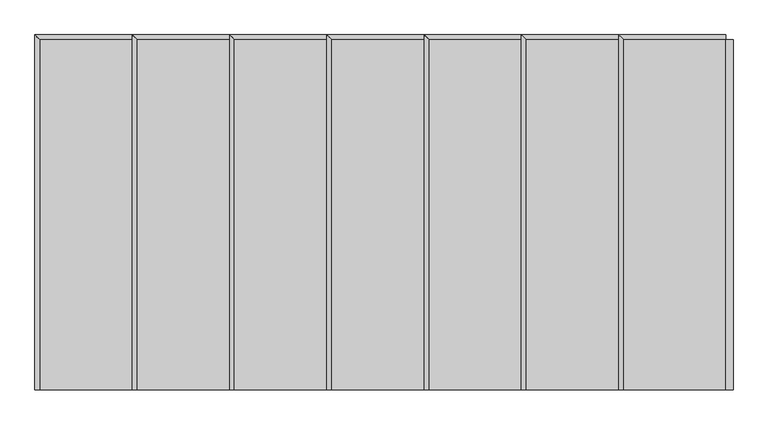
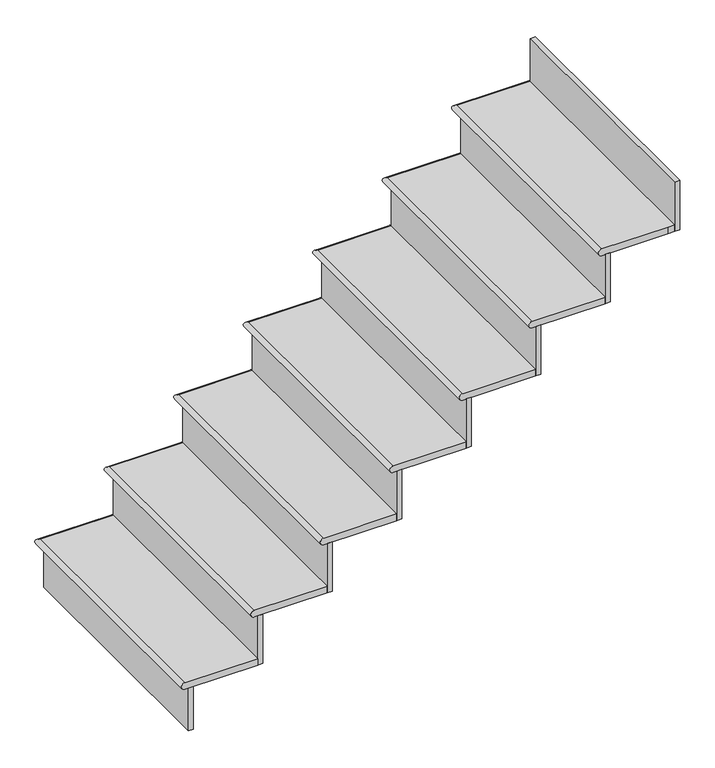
"""IFC4 building model written with IfcOpenShell, lengths in millimetres: stair flight geometry."""

import ifcopenshell
import ifcopenshell.guid

model = None  # the IFC model being written
_history = None  # IfcOwnerHistory: only IFC2X3 demands one
_inside = {}  # id of a spatial element -> (the spatial element, [elements in it])
_under = {}  # id of a project, library or spatial element -> (it, [spatial elements below it])
_declared = {}  # id of a project -> (the project, [libraries it declares])
_typed = {}  # id of a type object -> (the type object, [elements of that type])
_made_of = {}  # id of a material, layer set ... -> (it, [elements and type objects made of it])


def new_model(schema):
    """Start an empty IFC model of exactly this schema.

    Asked for "IFC4X3", IfcOpenShell would pick the latest addendum, in which some entities
    have other attributes; the version numbers below select the first issue.
    IFC2X3 requires an IfcOwnerHistory on every rooted entity: one is made here for all.
    """
    global model, _history
    if schema == "IFC4X3":
        model = ifcopenshell.file(schema_version=(4, 3, 0, 0))
    else:
        model = ifcopenshell.file(schema=schema)
    _inside.clear()
    _under.clear()
    _declared.clear()
    _typed.clear()
    _made_of.clear()
    _history = None
    if model.schema == "IFC2X3":
        org = make("IfcOrganization", Name="unknown")
        user = make(
            "IfcPersonAndOrganization",
            ThePerson=make("IfcPerson", FamilyName="unknown"),
            TheOrganization=org,
        )
        app = make(
            "IfcApplication",
            ApplicationDeveloper=org,
            Version="unknown",
            ApplicationFullName="unknown",
            ApplicationIdentifier="unknown",
        )
        _history = make(
            "IfcOwnerHistory",
            OwningUser=user,
            OwningApplication=app,
            ChangeAction="ADDED",
            CreationDate=0,
        )
    return model


def make(cls, **values):
    """One entity of the class cls with the attributes given. An attribute that is None is left unset."""
    return model.create_entity(
        cls, **{name: value for name, value in values.items() if value is not None}
    )


def rooted(cls, **values):
    """An entity with a GlobalId (a new one), such as an element, a storey or a relation."""
    return make(cls, GlobalId=ifcopenshell.guid.new(), OwnerHistory=_history, **values)


def si_unit(unit_type, name, prefix=None):
    """IfcSIUnit, for example si_unit("LENGTHUNIT", "METRE", prefix="MILLI")."""
    return make("IfcSIUnit", UnitType=unit_type, Prefix=prefix, Name=name)


def assignment(units):
    """IfcUnitAssignment: the units of a project."""
    return None if units is None else make("IfcUnitAssignment", Units=units)


def point(xyz):
    """IfcCartesianPoint."""
    return None if xyz is None else make("IfcCartesianPoint", Coordinates=xyz)


def direction(xyz):
    """IfcDirection."""
    return None if xyz is None else make("IfcDirection", DirectionRatios=xyz)


def frame(location, z_axis=None, x_axis=None):
    """IfcAxis2Placement3D, a coordinate frame: its origin and axes. An axis left out is left unset."""
    return make(
        "IfcAxis2Placement3D",
        Location=point(location),
        Axis=direction(z_axis),
        RefDirection=direction(x_axis),
    )


def origin():
    """The frame at (0, 0, 0) with its axes left unset."""
    return frame((0.0, 0.0, 0.0))


def place(relative_to, where):
    """IfcLocalPlacement: puts the frame where relative to a parent placement (None: the world)."""
    return make(
        "IfcLocalPlacement", PlacementRelTo=relative_to, RelativePlacement=where
    )


def context(
    kind, dimensions, precision=None, world=None, true_north=None, identifier=None
):
    """IfcGeometricRepresentationContext, for example the 3D "Model" context."""
    return make(
        "IfcGeometricRepresentationContext",
        ContextIdentifier=identifier,
        ContextType=kind,
        CoordinateSpaceDimension=dimensions,
        Precision=precision,
        WorldCoordinateSystem=world,
        TrueNorth=true_north,
    )


def project(units=None, contexts=None):
    """IfcProject with its units and contexts."""
    return rooted(
        "IfcProject",
        Name="project",
        RepresentationContexts=contexts,
        UnitsInContext=assignment(units),
    )


def spatial(cls, under=None, at=None, **own):
    """A site, building, storey or space (cls), placed at a placement, below another one or the project."""
    s = rooted(cls, ObjectPlacement=at, **own)
    if under is not None:
        _under.setdefault(under.id(), (under, []))[1].append(s)
    return s


def circle_curve(where, radius):
    """IfcCircle in the frame where."""
    return make("IfcCircle", Position=where, Radius=radius)


def ellipse_curve(where, semi_axis1, semi_axis2):
    """IfcEllipse in the frame where."""
    return make(
        "IfcEllipse", Position=where, SemiAxis1=semi_axis1, SemiAxis2=semi_axis2
    )


def faces_of(points, faces, orient=None, outer=None):
    """IfcFace entities. A face is a list of loops; a loop is a list of indices into points, from 0.

    orient and outer hold one flag for each loop. By default every Orientation is true, the
    first loop of a face is its IfcFaceOuterBound and the others are IfcFaceBound.
    """
    made = []
    for i, loops in enumerate(faces):
        bounds = []
        for j, loop in enumerate(loops):
            is_outer = j == 0 if outer is None else outer[i][j]
            bounds.append(
                make(
                    "IfcFaceOuterBound" if is_outer else "IfcFaceBound",
                    Bound=make("IfcPolyLoop", Polygon=[points[k] for k in loop]),
                    Orientation=True if orient is None else orient[i][j],
                )
            )
        made.append(make("IfcFace", Bounds=bounds))
    return made


def faceted_brep(points, faces, orient=None, outer=None, voids=None):
    """IfcFacetedBrep: a solid bounded by flat faces; with voids (closed shells), ...WithVoids."""
    shared = [point(p) for p in points]
    hull = make("IfcClosedShell", CfsFaces=faces_of(shared, faces, orient, outer))
    if voids is None:
        return make("IfcFacetedBrep", Outer=hull)
    return make(
        "IfcFacetedBrepWithVoids",
        Outer=hull,
        Voids=[
            make(cls, CfsFaces=faces_of(shared, fs, o, b)) for cls, fs, o, b in voids
        ],
    )


def shape(context_of_items, identifier, shape_type, items):
    """IfcShapeRepresentation: the items that make up one representation, for example the "Body"."""
    return make(
        "IfcShapeRepresentation",
        ContextOfItems=context_of_items,
        RepresentationIdentifier=identifier,
        RepresentationType=shape_type,
        Items=items,
    )


def source(mapping_origin, context_of_items, identifier, shape_type, items):
    """IfcRepresentationMap: a shape defined once, which mapped items show again and again."""
    return make(
        "IfcRepresentationMap",
        MappingOrigin=mapping_origin,
        MappedRepresentation=shape(context_of_items, identifier, shape_type, items),
    )


def transform(
    local_origin,
    x_axis=None,
    y_axis=None,
    z_axis=None,
    scale=None,
    scale2=None,
    scale3=None,
    uniform=True,
):
    """IfcCartesianTransformationOperator3D, or its non-uniform kind. x_axis, y_axis, z_axis: its Axis1, 2, 3."""
    if uniform:
        return make(
            "IfcCartesianTransformationOperator3D",
            Axis1=direction(x_axis),
            Axis2=direction(y_axis),
            LocalOrigin=point(local_origin),
            Scale=scale,
            Axis3=direction(z_axis),
        )
    return make(
        "IfcCartesianTransformationOperator3DnonUniform",
        Axis1=direction(x_axis),
        Axis2=direction(y_axis),
        LocalOrigin=point(local_origin),
        Scale=scale,
        Axis3=direction(z_axis),
        Scale2=scale2,
        Scale3=scale3,
    )


def mapped(mapping_source, mapping_target):
    """IfcMappedItem: shows the shape of a source again, moved by a transform."""
    return make(
        "IfcMappedItem", MappingSource=mapping_source, MappingTarget=mapping_target
    )


def made_of(thing, what):
    """Note that an element or type object is made of a material, layer set ...; save() writes the relation."""
    if what is not None:
        _made_of.setdefault(what.id(), (what, []))[1].append(thing)
    return thing


def element(
    cls,
    number,
    at=None,
    inside=None,
    cuts=None,
    type_object=None,
    material=None,
    context=None,
    identifier="Body",
    shape_type=None,
    held_by="IfcProductDefinitionShape",
    body=None,
    shapes=None,
    **own,
):
    """One element of the class cls, such as IfcWall. Its Tag is "e" and its number.

    at: its placement. inside: the storey or other place that contains it. cuts: it is an
    opening in that element (IfcRelVoidsElement). A single representation is given by context,
    identifier, shape_type and body (its items); several are given by shapes. held_by: the class
    of the entity that holds the representations. save() writes the other relations.
    """
    e = rooted(cls, Tag="e%d" % number, ObjectPlacement=at, **own)
    if body is not None:
        shapes = [shape(context, identifier, shape_type, body)]
    if shapes is not None:
        e.Representation = make(held_by, Representations=shapes)
    if inside is not None:
        _inside.setdefault(inside.id(), (inside, []))[1].append(e)
    if cuts is not None:
        rooted(
            "IfcRelVoidsElement", RelatingBuildingElement=cuts, RelatedOpeningElement=e
        )
    if type_object is not None:
        _typed.setdefault(type_object.id(), (type_object, []))[1].append(e)
    return made_of(e, material)


def aggregate(whole, parts):
    """IfcRelAggregates: a whole, such as a stair, and the parts it consists of."""
    return rooted("IfcRelAggregates", RelatingObject=whole, RelatedObjects=parts)


def save(model, path):
    """Write the relations noted so far, then the file.

    IfcRelAggregates (storeys below a building ...), IfcRelContainedInSpatialStructure (elements
    in a storey), IfcRelDefinesByType, IfcRelAssociatesMaterial and IfcRelDeclares: one each for
    every whole, place, type object, material and project.
    """
    for whole, parts in _under.values():
        aggregate(whole, parts)
    for where, things in _inside.values():
        rooted(
            "IfcRelContainedInSpatialStructure",
            RelatedElements=things,
            RelatingStructure=where,
        )
    for kind, things in _typed.values():
        rooted("IfcRelDefinesByType", RelatedObjects=things, RelatingType=kind)
    for what, things in _made_of.values():
        rooted("IfcRelAssociatesMaterial", RelatedObjects=things, RelatingMaterial=what)
    for by, libraries in _declared.values():
        rooted("IfcRelDeclares", RelatingContext=by, RelatedDefinitions=libraries)
    model.write(path)


def plane_surface(at):
    """IfcPlane: the flat surface through the origin of the frame at, square to its z axis."""
    return make("IfcPlane", Position=at)


def cylinder_surface(at, radius):
    """IfcCylindricalSurface: all points at the distance radius from the z axis of the frame at."""
    return make("IfcCylindricalSurface", Position=at, Radius=radius)


def advanced_brep(points, edges, surfaces, faces):
    """IfcAdvancedBrep: a solid bounded by faces that lie on surfaces and meet in shared edges.

    An edge is (start, end): straight between two places in points (the first is 0);
    or (start, end, curve); or (start, end, curve, False) where it runs against its curve.
    A face is (place in surfaces, loops), or (place, loops, False) where it looks against
    its surface's normal. A loop lists edges by number (the first is 1), with a minus sign
    where the edge is run from its end to its start. The first loop is the outer one.
    """
    corners = [point(p) for p in points]
    vertices = [make("IfcVertexPoint", VertexGeometry=c) for c in corners]
    made = []
    for start, end, *more in edges:
        made.append(
            make(
                "IfcEdgeCurve",
                EdgeStart=vertices[start],
                EdgeEnd=vertices[end],
                EdgeGeometry=more[0] if more else make("IfcPolyline", Points=[corners[start], corners[end]]),
                SameSense=more[1] if len(more) > 1 else True,
            )
        )
    hull = []
    for where, loops, *sense in faces:
        bounds = []
        for j, loop in enumerate(loops):
            ring = [make("IfcOrientedEdge", EdgeElement=made[abs(k) - 1], Orientation=k > 0) for k in loop]
            bounds.append(
                make(
                    "IfcFaceOuterBound" if j == 0 else "IfcFaceBound",
                    Bound=make("IfcEdgeLoop", EdgeList=ring),
                    Orientation=True,
                )
            )
        hull.append(make("IfcAdvancedFace", Bounds=bounds, FaceSurface=surfaces[where], SameSense=sense[0] if sense else True))
    return make("IfcAdvancedBrep", Outer=make("IfcClosedShell", CfsFaces=hull))


def stair_flight_ce8c0683(model_context):
    return source(origin(), model_context, "Body", "SolidModel", [
        advanced_brep(
        [(-17769.3481446, -2140.0871906, 165.1), (-17769.3481446, -2140.0871906, 190.5), (-17769.3481446, -1225.6871906, 190.5), (-17769.3481446, -1225.6871906, 165.1), (-17502.6481446, -2140.0871906, 190.5), (-17502.6481446, -1225.6871906, 190.5), (-17502.6481446, -2140.0871906, 165.1), (-17502.6481446, -1225.6871906, 165.1)],
        [
            (0, 1, circle_curve(frame((-17769.3481446, -2140.0871906, 177.8), z_axis=(0.0, 1.0, 0.0), x_axis=(1.0, 0.0, 0.0)), 12.7)),
            (1, 2),
            (2, 3, ellipse_curve(frame((-17769.3481446, -1225.6871906, 177.8), z_axis=(-0.7071067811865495, -0.7071067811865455, 0.0), x_axis=(0.7071067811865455, -0.7071067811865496, 0.0)), 17.9605122, 12.7)),
            (3, 0),
            (1, 4),
            (4, 5),
            (5, 2),
            (6, 0),
            (3, 7),
            (7, 6),
            (6, 4),
            (7, 5, circle_curve(frame((-17502.6481446, -1225.6871906, 177.8), z_axis=(1.0, 0.0, 0.0), x_axis=(0.0, -1.0, 0.0)), 12.7)),
        ],
        [
            cylinder_surface(frame((-17769.3481446, -2140.0871906, 177.8), z_axis=(0.0, -1.0, 0.0), x_axis=(1.0, 0.0, 0.0)), 12.7),
            plane_surface(frame((-17782.0481446, -1225.6871906, 190.5), z_axis=(0.0, 0.0, 1.0), x_axis=(-1.0, 0.0, 0.0))),
            plane_surface(frame((-17782.0481446, -1225.6871906, 165.1), z_axis=(0.0, 0.0, -1.0), x_axis=(1.0, 0.0, 0.0))),
            plane_surface(frame((-17769.3481446, -2140.0871906, 190.5), z_axis=(0.0, -1.0, 0.0), x_axis=(0.0, 0.0, -1.0))),
            plane_surface(frame((-17502.6481446, -2140.0871906, 190.5), z_axis=(1.0, 0.0, 0.0), x_axis=(0.0, 0.0, -1.0))),
            cylinder_surface(frame((-17769.3481446, -1225.6871906, 177.8), z_axis=(-1.0, 0.0, 0.0), x_axis=(0.0, -1.0, 0.0)), 12.7),
        ],
        [
            (0, [[1, 2, 3, 4]]),
            (1, [[5, 6, 7, -2]]),
            (2, [[8, -4, 9, 10]]),
            (3, [[-5, -1, -8, 11]]),
            (4, [[-6, -11, -10, 12]]),
            (5, [[-3, -7, -12, -9]]),
        ],
    ),
        faceted_brep([(-17756.6481446, -2140.0871906, 165.1), (-17756.6481446, -2140.0871906, 0.0), (-17737.5981446, -2140.0871906, 0.0), (-17737.5981446, -2140.0871906, 165.1), (-17756.6481446, -1225.6871906, 165.1), (-17737.5981446, -1225.6871906, 165.1), (-17737.5981446, -1225.6871906, 0.0), (-17756.6481446, -1225.6871906, 0.0)], [[[0, 1, 2, 3]], [[4, 5, 6, 7]], [[1, 0, 4, 7]], [[2, 1, 7, 6]], [[3, 2, 6, 5]], [[0, 3, 5, 4]]]),
        faceted_brep([(-17502.6481446, -2140.0871906, 355.6), (-17502.6481446, -2140.0871906, 165.1), (-17483.5981446, -2140.0871906, 165.1), (-17483.5981446, -2140.0871906, 355.6), (-17502.6481446, -1225.6871906, 355.6), (-17483.5981446, -1225.6871906, 355.6), (-17483.5981446, -1225.6871906, 165.1), (-17502.6481446, -1225.6871906, 165.1)], [[[0, 1, 2, 3]], [[4, 5, 6, 7]], [[1, 0, 4, 7]], [[2, 1, 7, 6]], [[3, 2, 6, 5]], [[0, 3, 5, 4]]]),
        advanced_brep(
        [(-17515.3481446, -2140.0871906, 381.0), (-17248.6481446, -2140.0871906, 381.0), (-17248.6481446, -1225.6871906, 381.0), (-17515.3481446, -1225.6871906, 381.0), (-17248.6481446, -2140.0871906, 355.6), (-17515.3481446, -2140.0871906, 355.6), (-17515.3481446, -1225.6871906, 355.6), (-17248.6481446, -1225.6871906, 355.6)],
        [
            (0, 1),
            (1, 2),
            (2, 3),
            (3, 0),
            (4, 5),
            (5, 6),
            (6, 7),
            (7, 4),
            (0, 5, circle_curve(frame((-17515.3481446, -2140.0871906, 368.3), z_axis=(0.0, -1.0, 0.0), x_axis=(1.0, 0.0, 0.0)), 12.7)),
            (4, 1),
            (7, 2, circle_curve(frame((-17248.6481446, -1225.6871906, 368.3), z_axis=(1.0, 0.0, 0.0), x_axis=(0.0, -1.0, 0.0)), 12.7)),
            (3, 6, ellipse_curve(frame((-17515.3481446, -1225.6871906, 368.3), z_axis=(-0.7071067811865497, -0.7071067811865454, 0.0), x_axis=(0.7071067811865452, -0.7071067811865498, 0.0)), 17.9605122, 12.7)),
        ],
        [
            plane_surface(frame((-17782.0481446, -1225.6871906, 381.0), z_axis=(0.0, 0.0, 1.0), x_axis=(-1.0, 0.0, 0.0))),
            plane_surface(frame((-17782.0481446, -1225.6871906, 355.6), z_axis=(0.0, 0.0, -1.0), x_axis=(1.0, 0.0, 0.0))),
            plane_surface(frame((-17515.3481446, -2140.0871906, 381.0), z_axis=(0.0, -1.0, 0.0), x_axis=(0.0, 0.0, -1.0))),
            plane_surface(frame((-17248.6481446, -2140.0871906, 381.0), z_axis=(1.0, 0.0, 0.0), x_axis=(0.0, 0.0, -1.0))),
            cylinder_surface(frame((-17515.3481446, -2140.0871906, 368.3), z_axis=(0.0, -1.0, 0.0), x_axis=(1.0, 0.0, 0.0)), 12.7),
            cylinder_surface(frame((-17515.3481446, -1225.6871906, 368.3), z_axis=(-1.0, 0.0, 0.0), x_axis=(0.0, -1.0, 0.0)), 12.7),
        ],
        [
            (0, [[1, 2, 3, 4]]),
            (1, [[5, 6, 7, 8]]),
            (2, [[-1, 9, -5, 10]]),
            (3, [[-2, -10, -8, 11]]),
            (4, [[-9, -4, 12, -6]]),
            (5, [[-12, -3, -11, -7]]),
        ],
    ),
        faceted_brep([(-17248.6481446, -2140.0871906, 546.1), (-17248.6481446, -2140.0871906, 355.6), (-17229.5981446, -2140.0871906, 355.6), (-17229.5981446, -2140.0871906, 546.1), (-17248.6481446, -1225.6871906, 546.1), (-17229.5981446, -1225.6871906, 546.1), (-17229.5981446, -1225.6871906, 355.6), (-17248.6481446, -1225.6871906, 355.6)], [[[0, 1, 2, 3]], [[4, 5, 6, 7]], [[1, 0, 4, 7]], [[2, 1, 7, 6]], [[3, 2, 6, 5]], [[0, 3, 5, 4]]]),
        advanced_brep(
        [(-17261.3481446, -2140.0871906, 571.5), (-16994.6481446, -2140.0871906, 571.5), (-16994.6481446, -1225.6871906, 571.5), (-17261.3481446, -1225.6871906, 571.5), (-16994.6481446, -2140.0871906, 546.1), (-17261.3481446, -2140.0871906, 546.1), (-17261.3481446, -1225.6871906, 546.1), (-16994.6481446, -1225.6871906, 546.1)],
        [
            (0, 1),
            (1, 2),
            (2, 3),
            (3, 0),
            (4, 5),
            (5, 6),
            (6, 7),
            (7, 4),
            (0, 5, circle_curve(frame((-17261.3481446, -2140.0871906, 558.8), z_axis=(0.0, -1.0, 0.0), x_axis=(1.0, 0.0, 0.0)), 12.7)),
            (4, 1),
            (7, 2, circle_curve(frame((-16994.6481446, -1225.6871906, 558.8), z_axis=(1.0, 0.0, 0.0), x_axis=(0.0, -1.0, 0.0)), 12.7)),
            (3, 6, ellipse_curve(frame((-17261.3481446, -1225.6871906, 558.8), z_axis=(-0.7071067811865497, -0.7071067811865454, 0.0), x_axis=(0.7071067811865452, -0.7071067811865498, 0.0)), 17.9605122, 12.7)),
        ],
        [
            plane_surface(frame((-17528.0481446, -1225.6871906, 571.5), z_axis=(0.0, 0.0, 1.0), x_axis=(-1.0, 0.0, 0.0))),
            plane_surface(frame((-17528.0481446, -1225.6871906, 546.1), z_axis=(0.0, 0.0, -1.0), x_axis=(1.0, 0.0, 0.0))),
            plane_surface(frame((-17261.3481446, -2140.0871906, 571.5), z_axis=(0.0, -1.0, 0.0), x_axis=(0.0, 0.0, -1.0))),
            plane_surface(frame((-16994.6481446, -2140.0871906, 571.5), z_axis=(1.0, 0.0, 0.0), x_axis=(0.0, 0.0, -1.0))),
            cylinder_surface(frame((-17261.3481446, -2140.0871906, 558.8), z_axis=(0.0, -1.0, 0.0), x_axis=(1.0, 0.0, 0.0)), 12.7),
            cylinder_surface(frame((-17261.3481446, -1225.6871906, 558.8), z_axis=(-1.0, 0.0, 0.0), x_axis=(0.0, -1.0, 0.0)), 12.7),
        ],
        [
            (0, [[1, 2, 3, 4]]),
            (1, [[5, 6, 7, 8]]),
            (2, [[-1, 9, -5, 10]]),
            (3, [[-2, -10, -8, 11]]),
            (4, [[-9, -4, 12, -6]]),
            (5, [[-12, -3, -11, -7]]),
        ],
    ),
        faceted_brep([(-16994.6481446, -2140.0871906, 736.6), (-16994.6481446, -2140.0871906, 546.1), (-16975.5981446, -2140.0871906, 546.1), (-16975.5981446, -2140.0871906, 736.6), (-16994.6481446, -1225.6871906, 736.6), (-16975.5981446, -1225.6871906, 736.6), (-16975.5981446, -1225.6871906, 546.1), (-16994.6481446, -1225.6871906, 546.1)], [[[0, 1, 2, 3]], [[4, 5, 6, 7]], [[1, 0, 4, 7]], [[2, 1, 7, 6]], [[3, 2, 6, 5]], [[0, 3, 5, 4]]]),
        advanced_brep(
        [(-17007.3481446, -2140.0871906, 762.0), (-16740.6481446, -2140.0871906, 762.0), (-16740.6481446, -1225.6871906, 762.0), (-17007.3481446, -1225.6871906, 762.0), (-16740.6481446, -2140.0871906, 736.6), (-17007.3481446, -2140.0871906, 736.6), (-17007.3481446, -1225.6871906, 736.6), (-16740.6481446, -1225.6871906, 736.6)],
        [
            (0, 1),
            (1, 2),
            (2, 3),
            (3, 0),
            (4, 5),
            (5, 6),
            (6, 7),
            (7, 4),
            (0, 5, circle_curve(frame((-17007.3481446, -2140.0871906, 749.3), z_axis=(0.0, -1.0, 0.0), x_axis=(1.0, 0.0, 0.0)), 12.7)),
            (4, 1),
            (7, 2, circle_curve(frame((-16740.6481446, -1225.6871906, 749.3), z_axis=(1.0, 0.0, 0.0), x_axis=(0.0, -1.0, 0.0)), 12.7)),
            (3, 6, ellipse_curve(frame((-17007.3481446, -1225.6871906, 749.3), z_axis=(-0.7071067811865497, -0.7071067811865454, 0.0), x_axis=(0.7071067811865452, -0.7071067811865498, 0.0)), 17.9605122, 12.7)),
        ],
        [
            plane_surface(frame((-17274.0481446, -1225.6871906, 762.0), z_axis=(0.0, 0.0, 1.0), x_axis=(-1.0, 0.0, 0.0))),
            plane_surface(frame((-17274.0481446, -1225.6871906, 736.6), z_axis=(0.0, 0.0, -1.0), x_axis=(1.0, 0.0, 0.0))),
            plane_surface(frame((-17007.3481446, -2140.0871906, 762.0), z_axis=(0.0, -1.0, 0.0), x_axis=(0.0, 0.0, -1.0))),
            plane_surface(frame((-16740.6481446, -2140.0871906, 762.0), z_axis=(1.0, 0.0, 0.0), x_axis=(0.0, 0.0, -1.0))),
            cylinder_surface(frame((-17007.3481446, -2140.0871906, 749.3), z_axis=(0.0, -1.0, 0.0), x_axis=(1.0, 0.0, 0.0)), 12.7),
            cylinder_surface(frame((-17007.3481446, -1225.6871906, 749.3), z_axis=(-1.0, 0.0, 0.0), x_axis=(0.0, -1.0, 0.0)), 12.7),
        ],
        [
            (0, [[1, 2, 3, 4]]),
            (1, [[5, 6, 7, 8]]),
            (2, [[-1, 9, -5, 10]]),
            (3, [[-2, -10, -8, 11]]),
            (4, [[-9, -4, 12, -6]]),
            (5, [[-12, -3, -11, -7]]),
        ],
    ),
        faceted_brep([(-16740.6481446, -2140.0871906, 927.1), (-16740.6481446, -2140.0871906, 736.6), (-16721.5981446, -2140.0871906, 736.6), (-16721.5981446, -2140.0871906, 927.1), (-16740.6481446, -1225.6871906, 927.1), (-16721.5981446, -1225.6871906, 927.1), (-16721.5981446, -1225.6871906, 736.6), (-16740.6481446, -1225.6871906, 736.6)], [[[0, 1, 2, 3]], [[4, 5, 6, 7]], [[1, 0, 4, 7]], [[2, 1, 7, 6]], [[3, 2, 6, 5]], [[0, 3, 5, 4]]]),
        advanced_brep(
        [(-16753.3481446, -2140.0871906, 952.5), (-16486.6481446, -2140.0871906, 952.5), (-16486.6481446, -1225.6871906, 952.5), (-16753.3481446, -1225.6871906, 952.5), (-16486.6481446, -2140.0871906, 927.1), (-16753.3481446, -2140.0871906, 927.1), (-16753.3481446, -1225.6871906, 927.1), (-16486.6481446, -1225.6871906, 927.1)],
        [
            (0, 1),
            (1, 2),
            (2, 3),
            (3, 0),
            (4, 5),
            (5, 6),
            (6, 7),
            (7, 4),
            (0, 5, circle_curve(frame((-16753.3481446, -2140.0871906, 939.8), z_axis=(0.0, -1.0, 0.0), x_axis=(1.0, 0.0, 0.0)), 12.7)),
            (4, 1),
            (7, 2, circle_curve(frame((-16486.6481446, -1225.6871906, 939.8), z_axis=(1.0, 0.0, 0.0), x_axis=(0.0, -1.0, 0.0)), 12.7)),
            (3, 6, ellipse_curve(frame((-16753.3481446, -1225.6871906, 939.8), z_axis=(-0.7071067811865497, -0.7071067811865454, 0.0), x_axis=(0.7071067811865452, -0.7071067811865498, 0.0)), 17.9605122, 12.7)),
        ],
        [
            plane_surface(frame((-17020.0481446, -1225.6871906, 952.5), z_axis=(0.0, 0.0, 1.0), x_axis=(-1.0, 0.0, 0.0))),
            plane_surface(frame((-17020.0481446, -1225.6871906, 927.1), z_axis=(0.0, 0.0, -1.0), x_axis=(1.0, 0.0, 0.0))),
            plane_surface(frame((-16753.3481446, -2140.0871906, 952.5), z_axis=(0.0, -1.0, 0.0), x_axis=(0.0, 0.0, -1.0))),
            plane_surface(frame((-16486.6481446, -2140.0871906, 952.5), z_axis=(1.0, 0.0, 0.0), x_axis=(0.0, 0.0, -1.0))),
            cylinder_surface(frame((-16753.3481446, -2140.0871906, 939.8), z_axis=(0.0, -1.0, 0.0), x_axis=(1.0, 0.0, 0.0)), 12.7),
            cylinder_surface(frame((-16753.3481446, -1225.6871906, 939.8), z_axis=(-1.0, 0.0, 0.0), x_axis=(0.0, -1.0, 0.0)), 12.7),
        ],
        [
            (0, [[1, 2, 3, 4]]),
            (1, [[5, 6, 7, 8]]),
            (2, [[-1, 9, -5, 10]]),
            (3, [[-2, -10, -8, 11]]),
            (4, [[-9, -4, 12, -6]]),
            (5, [[-12, -3, -11, -7]]),
        ],
    ),
        faceted_brep([(-16486.6481446, -2140.0871906, 1117.6), (-16486.6481446, -2140.0871906, 927.1), (-16467.5981446, -2140.0871906, 927.1), (-16467.5981446, -2140.0871906, 1117.6), (-16486.6481446, -1225.6871906, 1117.6), (-16467.5981446, -1225.6871906, 1117.6), (-16467.5981446, -1225.6871906, 927.1), (-16486.6481446, -1225.6871906, 927.1)], [[[0, 1, 2, 3]], [[4, 5, 6, 7]], [[1, 0, 4, 7]], [[2, 1, 7, 6]], [[3, 2, 6, 5]], [[0, 3, 5, 4]]]),
        advanced_brep(
        [(-16499.3481446, -2140.0871906, 1143.0), (-16232.6481446, -2140.0871906, 1143.0), (-16232.6481446, -1225.6871906, 1143.0), (-16499.3481446, -1225.6871906, 1143.0), (-16232.6481446, -2140.0871906, 1117.6), (-16499.3481446, -2140.0871906, 1117.6), (-16499.3481446, -1225.6871906, 1117.6), (-16232.6481446, -1225.6871906, 1117.6)],
        [
            (0, 1),
            (1, 2),
            (2, 3),
            (3, 0),
            (4, 5),
            (5, 6),
            (6, 7),
            (7, 4),
            (0, 5, circle_curve(frame((-16499.3481446, -2140.0871906, 1130.3), z_axis=(0.0, -1.0, 0.0), x_axis=(1.0, 0.0, 0.0)), 12.7)),
            (4, 1),
            (7, 2, circle_curve(frame((-16232.6481446, -1225.6871906, 1130.3), z_axis=(1.0, 0.0, 0.0), x_axis=(0.0, -1.0, 0.0)), 12.7)),
            (3, 6, ellipse_curve(frame((-16499.3481446, -1225.6871906, 1130.3), z_axis=(-0.7071067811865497, -0.7071067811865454, 0.0), x_axis=(0.7071067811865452, -0.7071067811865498, 0.0)), 17.9605122, 12.7)),
        ],
        [
            plane_surface(frame((-16766.0481446, -1225.6871906, 1143.0), z_axis=(0.0, 0.0, 1.0), x_axis=(-1.0, 0.0, 0.0))),
            plane_surface(frame((-16766.0481446, -1225.6871906, 1117.6), z_axis=(0.0, 0.0, -1.0), x_axis=(1.0, 0.0, 0.0))),
            plane_surface(frame((-16499.3481446, -2140.0871906, 1143.0), z_axis=(0.0, -1.0, 0.0), x_axis=(0.0, 0.0, -1.0))),
            plane_surface(frame((-16232.6481446, -2140.0871906, 1143.0), z_axis=(1.0, 0.0, 0.0), x_axis=(0.0, 0.0, -1.0))),
            cylinder_surface(frame((-16499.3481446, -2140.0871906, 1130.3), z_axis=(0.0, -1.0, 0.0), x_axis=(1.0, 0.0, 0.0)), 12.7),
            cylinder_surface(frame((-16499.3481446, -1225.6871906, 1130.3), z_axis=(-1.0, 0.0, 0.0), x_axis=(0.0, -1.0, 0.0)), 12.7),
        ],
        [
            (0, [[1, 2, 3, 4]]),
            (1, [[5, 6, 7, 8]]),
            (2, [[-1, 9, -5, 10]]),
            (3, [[-2, -10, -8, 11]]),
            (4, [[-9, -4, 12, -6]]),
            (5, [[-12, -3, -11, -7]]),
        ],
    ),
        faceted_brep([(-15978.6481446, -2140.0871906, 1498.6), (-15978.6481446, -2140.0871906, 1308.1), (-15959.5981446, -2140.0871906, 1308.1), (-15959.5981446, -2140.0871906, 1498.6), (-15978.6481446, -1225.6871906, 1498.6), (-15959.5981446, -1225.6871906, 1498.6), (-15959.5981446, -1225.6871906, 1308.1), (-15978.6481446, -1225.6871906, 1308.1)], [[[0, 1, 2, 3]], [[4, 5, 6, 7]], [[1, 0, 4, 7]], [[2, 1, 7, 6]], [[3, 2, 6, 5]], [[0, 3, 5, 4]]]),
        faceted_brep([(-16232.6481446, -2140.0871906, 1308.1), (-16232.6481446, -2140.0871906, 1117.6), (-16213.5981446, -2140.0871906, 1117.6), (-16213.5981446, -2140.0871906, 1308.1), (-16232.6481446, -1225.6871906, 1308.1), (-16213.5981446, -1225.6871906, 1308.1), (-16213.5981446, -1225.6871906, 1117.6), (-16232.6481446, -1225.6871906, 1117.6)], [[[0, 1, 2, 3]], [[4, 5, 6, 7]], [[1, 0, 4, 7]], [[2, 1, 7, 6]], [[3, 2, 6, 5]], [[0, 3, 5, 4]]]),
        advanced_brep(
        [(-16245.3481446, -2140.0871906, 1333.5), (-16004.0481446, -2140.0871906, 1333.5), (-15978.6481446, -2140.0871906, 1333.5), (-15978.6481446, -1225.6871906, 1333.5), (-16245.3481446, -1225.6871906, 1333.5), (-16004.0481446, -2140.0871906, 1308.1), (-16245.3481446, -2140.0871906, 1308.1), (-16245.3481446, -1225.6871906, 1308.1), (-15978.6481446, -1225.6871906, 1308.1), (-15978.6481446, -2140.0871906, 1308.1)],
        [
            (0, 1),
            (1, 2),
            (2, 3),
            (3, 4),
            (4, 0),
            (5, 6),
            (6, 7),
            (7, 8),
            (8, 9),
            (9, 5),
            (0, 6, circle_curve(frame((-16245.3481446, -2140.0871906, 1320.8), z_axis=(0.0, -1.0, 0.0), x_axis=(1.0, 0.0, 0.0)), 12.7)),
            (5, 1),
            (9, 2),
            (8, 3, circle_curve(frame((-15978.6481446, -1225.6871906, 1320.8), z_axis=(1.0, 0.0, 0.0), x_axis=(0.0, -1.0, 0.0)), 12.7)),
            (4, 7, ellipse_curve(frame((-16245.3481446, -1225.6871906, 1320.8), z_axis=(-0.7071067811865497, -0.7071067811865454, 0.0), x_axis=(0.7071067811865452, -0.7071067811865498, 0.0)), 17.9605122, 12.7)),
        ],
        [
            plane_surface(frame((-17782.0481446, -1225.6871906, 1333.5), z_axis=(0.0, 0.0, 1.0), x_axis=(-1.0, 0.0, 0.0))),
            plane_surface(frame((-17782.0481446, -1225.6871906, 1308.1), z_axis=(0.0, 0.0, -1.0), x_axis=(1.0, 0.0, 0.0))),
            plane_surface(frame((-16245.3481446, -2140.0871906, 1333.5), z_axis=(0.0, -1.0, 0.0), x_axis=(0.0, 0.0, -1.0))),
            plane_surface(frame((-16004.0481446, -2140.0871906, 1333.5), z_axis=(0.0, -1.0, 0.0), x_axis=(0.0, 0.0, -1.0))),
            plane_surface(frame((-15978.6481446, -2140.0871906, 1333.5), z_axis=(1.0, 0.0, 0.0), x_axis=(0.0, 0.0, -1.0))),
            cylinder_surface(frame((-16245.3481446, -2140.0871906, 1320.8), z_axis=(0.0, -1.0, 0.0), x_axis=(1.0, 0.0, 0.0)), 12.7),
            cylinder_surface(frame((-16245.3481446, -1225.6871906, 1320.8), z_axis=(-1.0, 0.0, 0.0), x_axis=(0.0, -1.0, 0.0)), 12.7),
        ],
        [
            (0, [[1, 2, 3, 4, 5]]),
            (1, [[6, 7, 8, 9, 10]]),
            (2, [[-1, 11, -6, 12]]),
            (3, [[-2, -12, -10, 13]]),
            (4, [[-3, -13, -9, 14]]),
            (5, [[-11, -5, 15, -7]]),
            (6, [[-15, -4, -14, -8]]),
        ],
    ),
    ])


if __name__ == "__main__":
    model = new_model("IFC4")
    model_context = context("Model", 3, world=origin())
    ifc_project = project(units=[si_unit("LENGTHUNIT", "METRE", prefix="MILLI")], contexts=[model_context])
    site = spatial("IfcSite", under=ifc_project)
    building = spatial("IfcBuilding", under=site)
    placement = place(None, origin())
    stair_flight_shape = stair_flight_ce8c0683(model_context)
    element("IfcStairFlight", 1, ObjectType="Unassigned Steps with 1\" Tread 1\" Nosing 3/4\" Riser (3)", at=placement, inside=building, context=model_context, shape_type="MappedRepresentation", body=[
        mapped(stair_flight_shape, transform((0.0, 0.0, 0.0), x_axis=(1.0, 0.0, 0.0), y_axis=(0.0, 1.0, 0.0), z_axis=(0.0, 0.0, 1.0))),
    ])
    save(model, "model.ifc")
